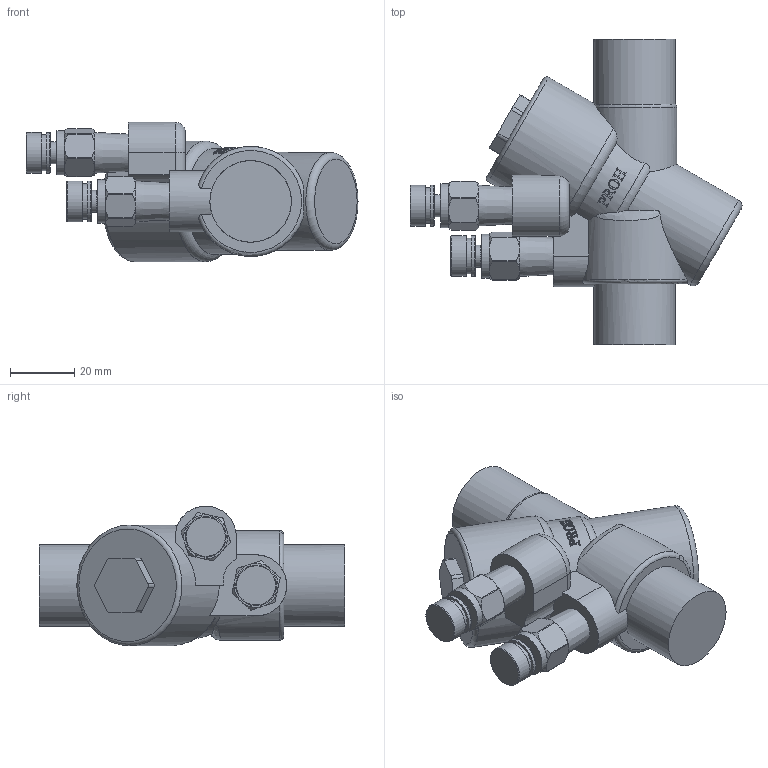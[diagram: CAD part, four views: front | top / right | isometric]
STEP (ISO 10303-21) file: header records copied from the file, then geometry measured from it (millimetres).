
FILE_DESCRIPTION(/* description */ (''),/* implementation_level */ '2;1');
FILE_NAME(/* name */ 'C:\Users\acc1\OneDrive\Desktop\STP and DWG files\AFLM\AFLM2_STEP.stp',/* time_stamp */ '2021-07-16T09:50:17-05:00',/* author */ ('acc1'),/* organization */ (''),/* preprocessor_version */ 'ST-DEVELOPER v18.1',/* originating_system */ 'Autodesk Inventor 2022',/* authorisation */ '');
FILE_SCHEMA (('AUTOMOTIVE_DESIGN { 1 0 10303 214 3 1 1 }'));
Length unit declared in the file: inch
Products named in the file (1): AFLM2_Assembly_Simplify_1
Bounding box: 103.39 x 95.25 x 43.46 mm (x, y, z)
Volume: 120527.6 mm3; surface area: 20020 mm2
Topology: 3 solids, 3 shells, 243 faces, 639 edges, 422 vertices
Faces by surface type: plane 102, bspline 62, cylinder 48, cone 16, torus 15
Full cylindrical faces by diameter (mm): 6.894 x2, 11.125 x2, 12.7 x4, 13.716 x2, 25.4 x2, 30.48 x1, 37.592 x1
Entity records: 9368 total; most frequent: CARTESIAN_POINT 3562, ORIENTED_EDGE 1278, DIRECTION 945, EDGE_CURVE 639, VERTEX_POINT 422, AXIS2_PLACEMENT_3D 343, EDGE_LOOP 263, LINE 259
